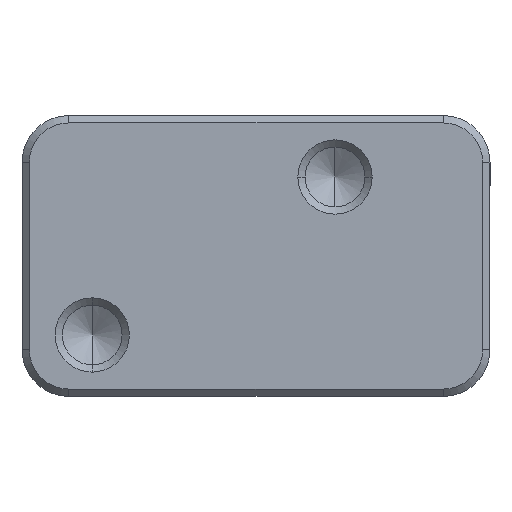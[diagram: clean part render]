
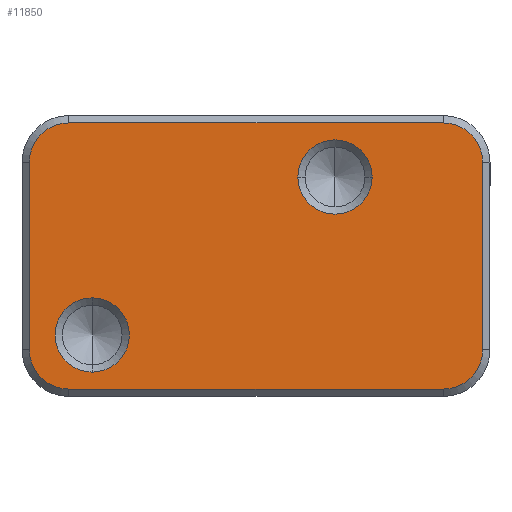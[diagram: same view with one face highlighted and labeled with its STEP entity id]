
A CAD part, front view. The second image highlights one B-rep face of the part: STEP entity #11850.
In plain terms, the highlighted planar face has unit normal (0, -1, 0).
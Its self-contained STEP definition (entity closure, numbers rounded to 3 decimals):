
#270 = FACE_OUTER_BOUND ( 'NONE', #4482, .T. ) ;
#277 = CARTESIAN_POINT ( 'NONE',  ( -32.001, 0.897, -16.012 ) ) ;
#637 = EDGE_CURVE ( 'NONE', #7200, #9675, #5301, .T. ) ;
#882 = DIRECTION ( 'NONE',  ( 0., 1., 0. ) ) ;
#1089 = DIRECTION ( 'NONE',  ( 0., 0., -1. ) ) ;
#1525 = CIRCLE ( 'NONE', #11360, 6.35 ) ;
#1636 = DIRECTION ( 'NONE',  ( 0., 1., 0. ) ) ;
#2004 = DIRECTION ( 'NONE',  ( 0., -1., 0. ) ) ;
#2049 = DIRECTION ( 'NONE',  ( 0., 1., 0. ) ) ;
#2055 = DIRECTION ( 'NONE',  ( 0., 0., -1. ) ) ;
#2135 = VERTEX_POINT ( 'NONE', #6698 ) ;
#2220 = VERTEX_POINT ( 'NONE', #13967 ) ;
#2312 = EDGE_CURVE ( 'NONE', #2135, #7817, #12568, .T. ) ;
#2313 = VERTEX_POINT ( 'NONE', #13083 ) ;
#2384 = EDGE_LOOP ( 'NONE', ( #10631, #4346 ) ) ;
#2670 = LINE ( 'NONE', #9271, #4773 ) ;
#2738 = CARTESIAN_POINT ( 'NONE',  ( 7.151, 0.897, 13.489 ) ) ;
#3027 = EDGE_LOOP ( 'NONE', ( #4580, #5887 ) ) ;
#3115 = AXIS2_PLACEMENT_3D ( 'NONE', #11878, #2049, #6443 ) ;
#3324 = DIRECTION ( 'NONE',  ( 0., 0., 1. ) ) ;
#3593 = DIRECTION ( 'NONE',  ( 0., 0., 1. ) ) ;
#3650 = EDGE_CURVE ( 'NONE', #8646, #4734, #12247, .T. ) ;
#3723 = EDGE_CURVE ( 'NONE', #8827, #14008, #10817, .T. ) ;
#3794 = CARTESIAN_POINT ( 'NONE',  ( -40., 0.897, -24.012 ) ) ;
#3802 = VERTEX_POINT ( 'NONE', #14209 ) ;
#4065 = DIRECTION ( 'NONE',  ( 0., 0., 1. ) ) ;
#4084 = CARTESIAN_POINT ( 'NONE',  ( -40., 0.897, 22.74 ) ) ;
#4089 = CARTESIAN_POINT ( 'NONE',  ( 38.75, 0.897, -24.012 ) ) ;
#4346 = ORIENTED_EDGE ( 'NONE', *, *, #3650, .T. ) ;
#4482 = EDGE_LOOP ( 'NONE', ( #13523, #7111, #14477, #5817, #10257, #7770, #12041, #13185 ) ) ;
#4580 = ORIENTED_EDGE ( 'NONE', *, *, #637, .T. ) ;
#4734 = VERTEX_POINT ( 'NONE', #4815 ) ;
#4762 = EDGE_CURVE ( 'NONE', #2220, #3802, #2670, .T. ) ;
#4773 = VECTOR ( 'NONE', #11846, 1000. ) ;
#4815 = CARTESIAN_POINT ( 'NONE',  ( 19.85, 0.897, 13.489 ) ) ;
#4979 = VECTOR ( 'NONE', #10964, 1000. ) ;
#5036 = DIRECTION ( 'NONE',  ( 0., 0., -1. ) ) ;
#5301 = CIRCLE ( 'NONE', #11614, 6.35 ) ;
#5428 = CARTESIAN_POINT ( 'NONE',  ( -38.75, 0.897, -24.012 ) ) ;
#5817 = ORIENTED_EDGE ( 'NONE', *, *, #8402, .T. ) ;
#5887 = ORIENTED_EDGE ( 'NONE', *, *, #14363, .T. ) ;
#5930 = AXIS2_PLACEMENT_3D ( 'NONE', #7015, #10312, #5997 ) ;
#5997 = DIRECTION ( 'NONE',  ( 1., 0., 0. ) ) ;
#5999 = DIRECTION ( 'NONE',  ( 0., -1., 0. ) ) ;
#6160 = AXIS2_PLACEMENT_3D ( 'NONE', #8456, #1636, #14191 ) ;
#6246 = AXIS2_PLACEMENT_3D ( 'NONE', #9620, #14108, #4065 ) ;
#6443 = DIRECTION ( 'NONE',  ( 1., 0., 0. ) ) ;
#6472 = CARTESIAN_POINT ( 'NONE',  ( 38.75, 0.897, 15.99 ) ) ;
#6698 = CARTESIAN_POINT ( 'NONE',  ( -32.001, 0.897, 22.74 ) ) ;
#6908 = CIRCLE ( 'NONE', #7139, 6.75 ) ;
#7015 = CARTESIAN_POINT ( 'NONE',  ( 13.501, 0.897, 13.489 ) ) ;
#7111 = ORIENTED_EDGE ( 'NONE', *, *, #3723, .T. ) ;
#7139 = AXIS2_PLACEMENT_3D ( 'NONE', #277, #12607, #3593 ) ;
#7148 = CIRCLE ( 'NONE', #11117, 6.75 ) ;
#7200 = VERTEX_POINT ( 'NONE', #12536 ) ;
#7770 = ORIENTED_EDGE ( 'NONE', *, *, #11802, .T. ) ;
#7817 = VERTEX_POINT ( 'NONE', #11158 ) ;
#8006 = CARTESIAN_POINT ( 'NONE',  ( 38.75, 0.897, -16.012 ) ) ;
#8039 = VECTOR ( 'NONE', #3324, 1000. ) ;
#8258 = FACE_BOUND ( 'NONE', #2384, .T. ) ;
#8402 = EDGE_CURVE ( 'NONE', #2313, #2135, #13029, .T. ) ;
#8456 = CARTESIAN_POINT ( 'NONE',  ( 32.001, 0.897, -16.012 ) ) ;
#8469 = CARTESIAN_POINT ( 'NONE',  ( -28.001, 0.897, -13.511 ) ) ;
#8646 = VERTEX_POINT ( 'NONE', #2738 ) ;
#8827 = VERTEX_POINT ( 'NONE', #8006 ) ;
#9030 = CARTESIAN_POINT ( 'NONE',  ( -28.001, 0.897, -7.161 ) ) ;
#9271 = CARTESIAN_POINT ( 'NONE',  ( -40., 0.897, -22.762 ) ) ;
#9620 = CARTESIAN_POINT ( 'NONE',  ( -32.001, 0.897, 15.99 ) ) ;
#9675 = VERTEX_POINT ( 'NONE', #9030 ) ;
#10129 = EDGE_CURVE ( 'NONE', #4734, #8646, #11764, .T. ) ;
#10257 = ORIENTED_EDGE ( 'NONE', *, *, #2312, .T. ) ;
#10312 = DIRECTION ( 'NONE',  ( 0., 1., 0. ) ) ;
#10631 = ORIENTED_EDGE ( 'NONE', *, *, #10129, .T. ) ;
#10664 = DIRECTION ( 'NONE',  ( 0., 1., 0. ) ) ;
#10760 = EDGE_CURVE ( 'NONE', #8827, #2220, #10832, .T. ) ;
#10771 = CARTESIAN_POINT ( 'NONE',  ( -28.001, 0.897, -13.511 ) ) ;
#10817 = LINE ( 'NONE', #4089, #8039 ) ;
#10832 = CIRCLE ( 'NONE', #6160, 6.75 ) ;
#10964 = DIRECTION ( 'NONE',  ( -1., 0., 0. ) ) ;
#11117 = AXIS2_PLACEMENT_3D ( 'NONE', #12122, #2004, #13143 ) ;
#11158 = CARTESIAN_POINT ( 'NONE',  ( -38.75, 0.897, 15.99 ) ) ;
#11360 = AXIS2_PLACEMENT_3D ( 'NONE', #10771, #882, #2055 ) ;
#11614 = AXIS2_PLACEMENT_3D ( 'NONE', #8469, #10664, #5036 ) ;
#11640 = DIRECTION ( 'NONE',  ( 1., 0., 0. ) ) ;
#11764 = CIRCLE ( 'NONE', #3115, 6.35 ) ;
#11802 = EDGE_CURVE ( 'NONE', #7817, #13653, #12167, .T. ) ;
#11846 = DIRECTION ( 'NONE',  ( -1., 0., 0. ) ) ;
#11850 = ADVANCED_FACE ( 'NONE', ( #8258, #270, #13624 ), #12742, .T. ) ;
#11878 = CARTESIAN_POINT ( 'NONE',  ( 13.501, 0.897, 13.489 ) ) ;
#12041 = ORIENTED_EDGE ( 'NONE', *, *, #13738, .F. ) ;
#12122 = CARTESIAN_POINT ( 'NONE',  ( 32.001, 0.897, 15.99 ) ) ;
#12167 = LINE ( 'NONE', #5428, #12722 ) ;
#12247 = CIRCLE ( 'NONE', #5930, 6.35 ) ;
#12252 = AXIS2_PLACEMENT_3D ( 'NONE', #3794, #5999, #11640 ) ;
#12536 = CARTESIAN_POINT ( 'NONE',  ( -28.001, 0.897, -19.861 ) ) ;
#12568 = CIRCLE ( 'NONE', #6246, 6.75 ) ;
#12607 = DIRECTION ( 'NONE',  ( 0., 1., 0. ) ) ;
#12722 = VECTOR ( 'NONE', #1089, 1000. ) ;
#12742 = PLANE ( 'NONE',  #12252 ) ;
#13029 = LINE ( 'NONE', #4084, #4979 ) ;
#13083 = CARTESIAN_POINT ( 'NONE',  ( 32.001, 0.897, 22.74 ) ) ;
#13143 = DIRECTION ( 'NONE',  ( 0., 0., 1. ) ) ;
#13185 = ORIENTED_EDGE ( 'NONE', *, *, #4762, .F. ) ;
#13523 = ORIENTED_EDGE ( 'NONE', *, *, #10760, .F. ) ;
#13624 = FACE_BOUND ( 'NONE', #3027, .T. ) ;
#13653 = VERTEX_POINT ( 'NONE', #13869 ) ;
#13738 = EDGE_CURVE ( 'NONE', #3802, #13653, #6908, .T. ) ;
#13869 = CARTESIAN_POINT ( 'NONE',  ( -38.75, 0.897, -16.012 ) ) ;
#13967 = CARTESIAN_POINT ( 'NONE',  ( 32.001, 0.897, -22.762 ) ) ;
#14004 = EDGE_CURVE ( 'NONE', #14008, #2313, #7148, .T. ) ;
#14008 = VERTEX_POINT ( 'NONE', #6472 ) ;
#14108 = DIRECTION ( 'NONE',  ( 0., -1., 0. ) ) ;
#14191 = DIRECTION ( 'NONE',  ( 0., 0., 1. ) ) ;
#14209 = CARTESIAN_POINT ( 'NONE',  ( -32.001, 0.897, -22.762 ) ) ;
#14363 = EDGE_CURVE ( 'NONE', #9675, #7200, #1525, .T. ) ;
#14477 = ORIENTED_EDGE ( 'NONE', *, *, #14004, .T. ) ;
